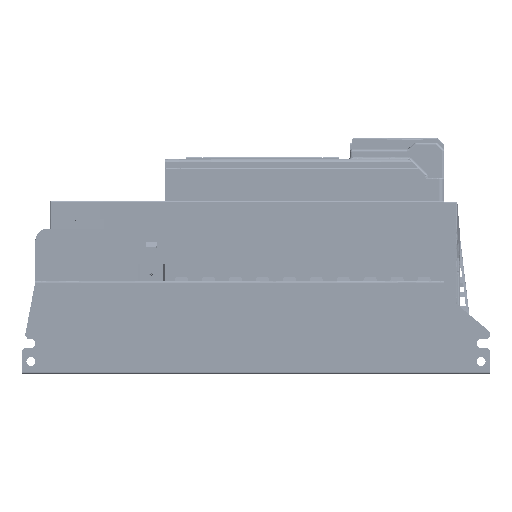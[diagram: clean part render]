
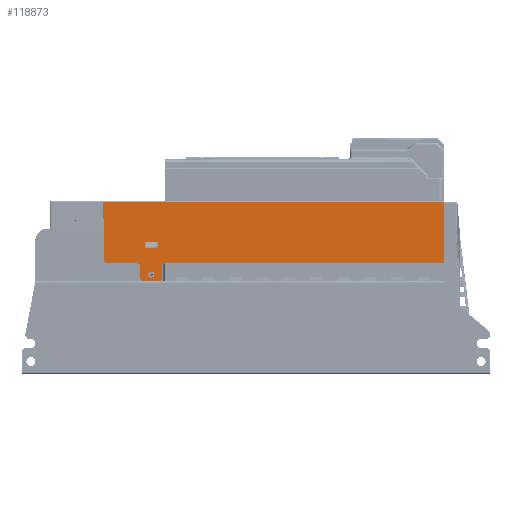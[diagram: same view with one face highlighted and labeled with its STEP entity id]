
A CAD part, front view. The second image highlights one B-rep face of the part: STEP entity #118873.
In plain terms, the highlighted planar face has unit normal (0, -1, 0).
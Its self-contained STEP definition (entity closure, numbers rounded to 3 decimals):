
#3744=FACE_BOUND('',#161433,.T.);
#3745=FACE_BOUND('',#161434,.T.);
#26903=(
BOUNDED_CURVE()
B_SPLINE_CURVE(2,(#1119828,#1119829,#1119830),.UNSPECIFIED.,.F.,.F.)
B_SPLINE_CURVE_WITH_KNOTS((3,3),(0.,3.142),.UNSPECIFIED.)
CURVE()
GEOMETRIC_REPRESENTATION_ITEM()
RATIONAL_B_SPLINE_CURVE((1.,0.707,1.))
REPRESENTATION_ITEM('')
);
#26904=(
BOUNDED_CURVE()
B_SPLINE_CURVE(2,(#1119876,#1119877,#1119878),.UNSPECIFIED.,.F.,.F.)
B_SPLINE_CURVE_WITH_KNOTS((3,3),(-4.443,0.),.UNSPECIFIED.)
CURVE()
GEOMETRIC_REPRESENTATION_ITEM()
RATIONAL_B_SPLINE_CURVE((1.,0.707,1.))
REPRESENTATION_ITEM('')
);
#26905=(
BOUNDED_CURVE()
B_SPLINE_CURVE(2,(#1119879,#1119880,#1119881),.UNSPECIFIED.,.F.,.F.)
B_SPLINE_CURVE_WITH_KNOTS((3,3),(0.,1.674),.UNSPECIFIED.)
CURVE()
GEOMETRIC_REPRESENTATION_ITEM()
RATIONAL_B_SPLINE_CURVE((1.,0.977,1.))
REPRESENTATION_ITEM('')
);
#26906=(
BOUNDED_CURVE()
B_SPLINE_CURVE(2,(#1119882,#1119883,#1119884,#1119885,#1119886),
 .UNSPECIFIED.,.F.,.F.)
B_SPLINE_CURVE_WITH_KNOTS((3,2,3),(0.,6.109,12.217),
 .UNSPECIFIED.)
CURVE()
GEOMETRIC_REPRESENTATION_ITEM()
RATIONAL_B_SPLINE_CURVE((1.,0.707,1.,0.707,1.))
REPRESENTATION_ITEM('')
);
#118873=ADVANCED_FACE('',(#139767,#3744,#3745),#614825,.T.);
#139767=FACE_OUTER_BOUND('',#161432,.T.);
#161432=EDGE_LOOP('',(#243662,#243663,#243664,#243665,#243666,#243667,#243668,
#243669,#243670,#243671));
#161433=EDGE_LOOP('',(#243672,#243673,#243674,#243675));
#161434=EDGE_LOOP('',(#243676,#243677,#243678));
#243662=ORIENTED_EDGE('',*,*,#361004,.F.);
#243663=ORIENTED_EDGE('',*,*,#361017,.F.);
#243664=ORIENTED_EDGE('',*,*,#361005,.F.);
#243665=ORIENTED_EDGE('',*,*,#361006,.F.);
#243666=ORIENTED_EDGE('',*,*,#361007,.F.);
#243667=ORIENTED_EDGE('',*,*,#361008,.F.);
#243668=ORIENTED_EDGE('',*,*,#361009,.F.);
#243669=ORIENTED_EDGE('',*,*,#361010,.F.);
#243670=ORIENTED_EDGE('',*,*,#361011,.F.);
#243671=ORIENTED_EDGE('',*,*,#361003,.F.);
#243672=ORIENTED_EDGE('',*,*,#361012,.F.);
#243673=ORIENTED_EDGE('',*,*,#361013,.F.);
#243674=ORIENTED_EDGE('',*,*,#361014,.F.);
#243675=ORIENTED_EDGE('',*,*,#361015,.F.);
#243676=ORIENTED_EDGE('',*,*,#361016,.F.);
#243677=ORIENTED_EDGE('',*,*,#361018,.F.);
#243678=ORIENTED_EDGE('',*,*,#361019,.F.);
#361003=EDGE_CURVE('',#566733,#566734,#26903,.T.);
#361004=EDGE_CURVE('',#566735,#566733,#455532,.T.);
#361005=EDGE_CURVE('',#566737,#566736,#455533,.T.);
#361006=EDGE_CURVE('',#566738,#566737,#455534,.T.);
#361007=EDGE_CURVE('',#566739,#566738,#455535,.T.);
#361008=EDGE_CURVE('',#566740,#566739,#455536,.T.);
#361009=EDGE_CURVE('',#566741,#566740,#455537,.T.);
#361010=EDGE_CURVE('',#566742,#566741,#455538,.T.);
#361011=EDGE_CURVE('',#566734,#566742,#455539,.T.);
#361012=EDGE_CURVE('',#566743,#566744,#455540,.T.);
#361013=EDGE_CURVE('',#566745,#566743,#455541,.T.);
#361014=EDGE_CURVE('',#566746,#566745,#455542,.T.);
#361015=EDGE_CURVE('',#566744,#566746,#455543,.T.);
#361016=EDGE_CURVE('',#566747,#566748,#455544,.T.);
#361017=EDGE_CURVE('',#566736,#566735,#26904,.T.);
#361018=EDGE_CURVE('',#566749,#566747,#26905,.T.);
#361019=EDGE_CURVE('',#566748,#566749,#26906,.T.);
#455532=B_SPLINE_CURVE_WITH_KNOTS('',1,(#1119831,#1119832),
 .UNSPECIFIED.,.F.,.F.,(2,2),(-15.4,0.),.UNSPECIFIED.);
#455533=B_SPLINE_CURVE_WITH_KNOTS('',1,(#1119833,#1119834),
 .UNSPECIFIED.,.F.,.F.,(2,2),(-13.2,0.),.UNSPECIFIED.);
#455534=B_SPLINE_CURVE_WITH_KNOTS('',1,(#1119835,#1119836),
 .UNSPECIFIED.,.F.,.F.,(2,2),(-251.3,0.),.UNSPECIFIED.);
#455535=B_SPLINE_CURVE_WITH_KNOTS('',1,(#1119837,#1119838),
 .UNSPECIFIED.,.F.,.F.,(2,2),(-54.65,0.),.UNSPECIFIED.);
#455536=B_SPLINE_CURVE_WITH_KNOTS('',1,(#1119839,#1119840),
 .UNSPECIFIED.,.F.,.F.,(2,2),(0.,304.),.UNSPECIFIED.);
#455537=B_SPLINE_CURVE_WITH_KNOTS('',1,(#1119841,#1119842),
 .UNSPECIFIED.,.F.,.F.,(2,2),(-54.65,0.),.UNSPECIFIED.);
#455538=B_SPLINE_CURVE_WITH_KNOTS('',1,(#1119843,#1119844),
 .UNSPECIFIED.,.F.,.F.,(2,2),(-33.3,0.),.UNSPECIFIED.);
#455539=B_SPLINE_CURVE_WITH_KNOTS('',1,(#1119845,#1119846),
 .UNSPECIFIED.,.F.,.F.,(2,2),(-13.2,0.),.UNSPECIFIED.);
#455540=B_SPLINE_CURVE_WITH_KNOTS('',1,(#1119847,#1119848),
 .UNSPECIFIED.,.F.,.F.,(2,2),(0.,12.),.UNSPECIFIED.);
#455541=B_SPLINE_CURVE_WITH_KNOTS('',1,(#1119849,#1119850),
 .UNSPECIFIED.,.F.,.F.,(2,2),(0.,5.65),.UNSPECIFIED.);
#455542=B_SPLINE_CURVE_WITH_KNOTS('',1,(#1119851,#1119852),
 .UNSPECIFIED.,.F.,.F.,(2,2),(0.,12.),.UNSPECIFIED.);
#455543=B_SPLINE_CURVE_WITH_KNOTS('',1,(#1119853,#1119854),
 .UNSPECIFIED.,.F.,.F.,(2,2),(0.,5.65),.UNSPECIFIED.);
#455544=B_SPLINE_CURVE_WITH_KNOTS('',5,(#1119855,#1119856,#1119857,#1119858,
#1119859,#1119860,#1119861,#1119862,#1119863,#1119864,#1119865,#1119866,
#1119867,#1119868,#1119869,#1119870,#1119871,#1119872,#1119873,#1119874,
#1119875),.UNSPECIFIED.,.F.,.F.,(6,3,3,3,3,3,6),(1.674,2.298,
4.596,6.893,9.191,11.489,12.217),
 .UNSPECIFIED.);
#566733=VERTEX_POINT('',#1119811);
#566734=VERTEX_POINT('',#1119812);
#566735=VERTEX_POINT('',#1119813);
#566736=VERTEX_POINT('',#1119814);
#566737=VERTEX_POINT('',#1119815);
#566738=VERTEX_POINT('',#1119816);
#566739=VERTEX_POINT('',#1119817);
#566740=VERTEX_POINT('',#1119818);
#566741=VERTEX_POINT('',#1119819);
#566742=VERTEX_POINT('',#1119820);
#566743=VERTEX_POINT('',#1119821);
#566744=VERTEX_POINT('',#1119822);
#566745=VERTEX_POINT('',#1119823);
#566746=VERTEX_POINT('',#1119824);
#566747=VERTEX_POINT('',#1119825);
#566748=VERTEX_POINT('',#1119826);
#566749=VERTEX_POINT('',#1119827);
#614825=PLANE('',#622811);
#622811=AXIS2_PLACEMENT_3D('',#1119810,#630780,$);
#630780=DIRECTION('',(0.,-1.,0.));
#1119810=CARTESIAN_POINT('',(296.07,-183.75,75.755));
#1119811=CARTESIAN_POINT('',(-3.09,-183.75,82.8));
#1119812=CARTESIAN_POINT('',(-5.09,-183.75,84.8));
#1119813=CARTESIAN_POINT('',(12.31,-183.75,82.8));
#1119814=CARTESIAN_POINT('',(14.31,-183.75,84.8));
#1119815=CARTESIAN_POINT('',(14.31,-183.75,98.));
#1119816=CARTESIAN_POINT('',(265.61,-183.75,98.));
#1119817=CARTESIAN_POINT('',(265.61,-183.75,152.65));
#1119818=CARTESIAN_POINT('',(-38.39,-183.75,152.65));
#1119819=CARTESIAN_POINT('',(-38.39,-183.75,98.));
#1119820=CARTESIAN_POINT('',(-5.09,-183.75,98.));
#1119821=CARTESIAN_POINT('',(-1.39,-183.75,111.85));
#1119822=CARTESIAN_POINT('',(10.61,-183.75,111.85));
#1119823=CARTESIAN_POINT('',(-1.39,-183.75,117.5));
#1119824=CARTESIAN_POINT('',(10.61,-183.75,117.5));
#1119825=CARTESIAN_POINT('',(2.111,-183.75,87.153));
#1119826=CARTESIAN_POINT('',(7.36,-183.75,88.3));
#1119827=CARTESIAN_POINT('',(1.86,-183.75,88.3));
#1119828=CARTESIAN_POINT('',(-3.09,-183.75,82.8));
#1119829=CARTESIAN_POINT('',(-5.09,-183.75,82.8));
#1119830=CARTESIAN_POINT('',(-5.09,-183.75,84.8));
#1119831=CARTESIAN_POINT('',(12.31,-183.75,82.8));
#1119832=CARTESIAN_POINT('',(-3.09,-183.75,82.8));
#1119833=CARTESIAN_POINT('',(14.31,-183.75,98.));
#1119834=CARTESIAN_POINT('',(14.31,-183.75,84.8));
#1119835=CARTESIAN_POINT('',(265.61,-183.75,98.));
#1119836=CARTESIAN_POINT('',(14.31,-183.75,98.));
#1119837=CARTESIAN_POINT('',(265.61,-183.75,152.65));
#1119838=CARTESIAN_POINT('',(265.61,-183.75,98.));
#1119839=CARTESIAN_POINT('',(-38.39,-183.75,152.65));
#1119840=CARTESIAN_POINT('',(265.61,-183.75,152.65));
#1119841=CARTESIAN_POINT('',(-38.39,-183.75,98.));
#1119842=CARTESIAN_POINT('',(-38.39,-183.75,152.65));
#1119843=CARTESIAN_POINT('',(-5.09,-183.75,98.));
#1119844=CARTESIAN_POINT('',(-38.39,-183.75,98.));
#1119845=CARTESIAN_POINT('',(-5.09,-183.75,84.8));
#1119846=CARTESIAN_POINT('',(-5.09,-183.75,98.));
#1119847=CARTESIAN_POINT('',(-1.39,-183.75,111.85));
#1119848=CARTESIAN_POINT('',(10.61,-183.75,111.85));
#1119849=CARTESIAN_POINT('',(-1.39,-183.75,117.5));
#1119850=CARTESIAN_POINT('',(-1.39,-183.75,111.85));
#1119851=CARTESIAN_POINT('',(10.61,-183.75,117.5));
#1119852=CARTESIAN_POINT('',(-1.39,-183.75,117.5));
#1119853=CARTESIAN_POINT('',(10.61,-183.75,111.85));
#1119854=CARTESIAN_POINT('',(10.61,-183.75,117.5));
#1119855=CARTESIAN_POINT('',(2.111,-183.75,87.153));
#1119856=CARTESIAN_POINT('',(2.148,-183.75,87.072));
#1119857=CARTESIAN_POINT('',(2.188,-183.75,86.994));
#1119858=CARTESIAN_POINT('',(2.231,-183.75,86.917));
#1119859=CARTESIAN_POINT('',(2.447,-183.75,86.564));
#1119860=CARTESIAN_POINT('',(2.728,-183.75,86.255));
#1119861=CARTESIAN_POINT('',(2.984,-183.75,86.047));
#1119862=CARTESIAN_POINT('',(3.549,-183.75,85.711));
#1119863=CARTESIAN_POINT('',(4.186,-183.75,85.553));
#1119864=CARTESIAN_POINT('',(4.515,-183.75,85.523));
#1119865=CARTESIAN_POINT('',(5.171,-183.75,85.559));
#1119866=CARTESIAN_POINT('',(5.788,-183.75,85.783));
#1119867=CARTESIAN_POINT('',(6.078,-183.75,85.94));
#1119868=CARTESIAN_POINT('',(6.603,-183.75,86.336));
#1119869=CARTESIAN_POINT('',(6.99,-183.75,86.866));
#1119870=CARTESIAN_POINT('',(7.144,-183.75,87.158));
#1119871=CARTESIAN_POINT('',(7.285,-183.75,87.567));
#1119872=CARTESIAN_POINT('',(7.345,-183.75,87.991));
#1119873=CARTESIAN_POINT('',(7.355,-183.75,88.094));
#1119874=CARTESIAN_POINT('',(7.36,-183.75,88.197));
#1119875=CARTESIAN_POINT('',(7.36,-183.75,88.3));
#1119876=CARTESIAN_POINT('',(14.31,-183.75,84.8));
#1119877=CARTESIAN_POINT('',(14.31,-183.75,82.8));
#1119878=CARTESIAN_POINT('',(12.31,-183.75,82.8));
#1119879=CARTESIAN_POINT('',(1.86,-183.75,88.3));
#1119880=CARTESIAN_POINT('',(1.86,-183.75,87.699));
#1119881=CARTESIAN_POINT('',(2.111,-183.75,87.153));
#1119882=CARTESIAN_POINT('',(7.36,-183.75,88.3));
#1119883=CARTESIAN_POINT('',(7.36,-183.75,91.05));
#1119884=CARTESIAN_POINT('',(4.61,-183.75,91.05));
#1119885=CARTESIAN_POINT('',(1.86,-183.75,91.05));
#1119886=CARTESIAN_POINT('',(1.86,-183.75,88.3));
